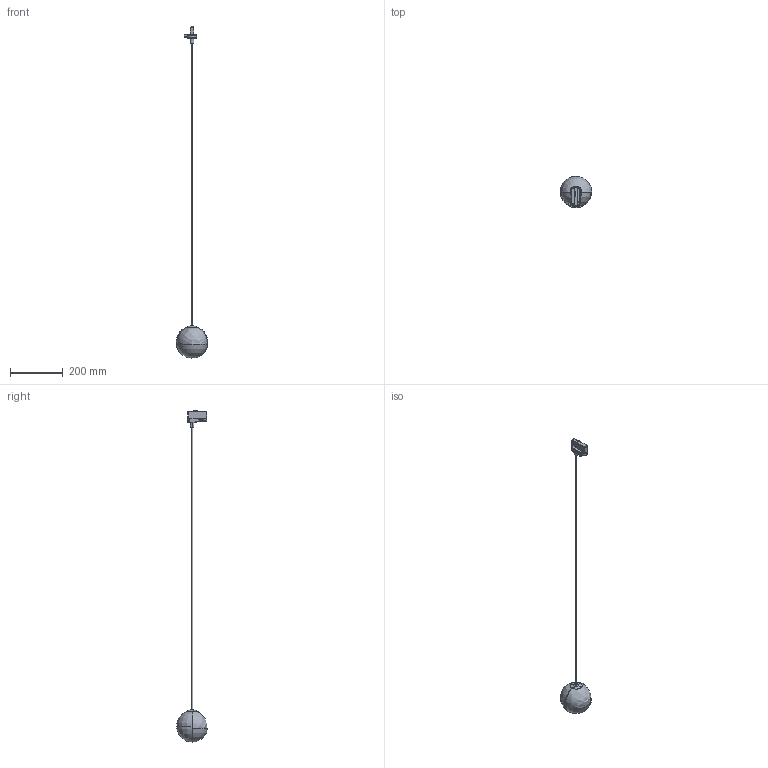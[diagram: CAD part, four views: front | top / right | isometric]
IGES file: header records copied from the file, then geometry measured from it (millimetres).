
Start section: SolidWorks IGES file using analytic representation for surfaces
Global section: file name: Y:\PRODUKT\Modele_3D_WWW\CTLS SNOW BALL\CTLS SNOW BALL zwis\CTLS SNOW BALL zwis PM\CTLS SNOW BALL zwis\CTLS SNOW BALL ZWIS pm.IGS; native system: SolidWorks 2023; preprocessor: SolidWorks 2023; author: anna.bielnik; date: 240506.134102; units: millimetre
Bounding box: 120 x 118.88 x 1254.31 mm (x, y, z)
Surface area: 134244.8 mm2 (no closed solid volume)
Topology: 0 solids, 0 shells, 273 faces, 3446 edges, 3441 vertices
Faces by surface type: revolution 194, bspline 79
